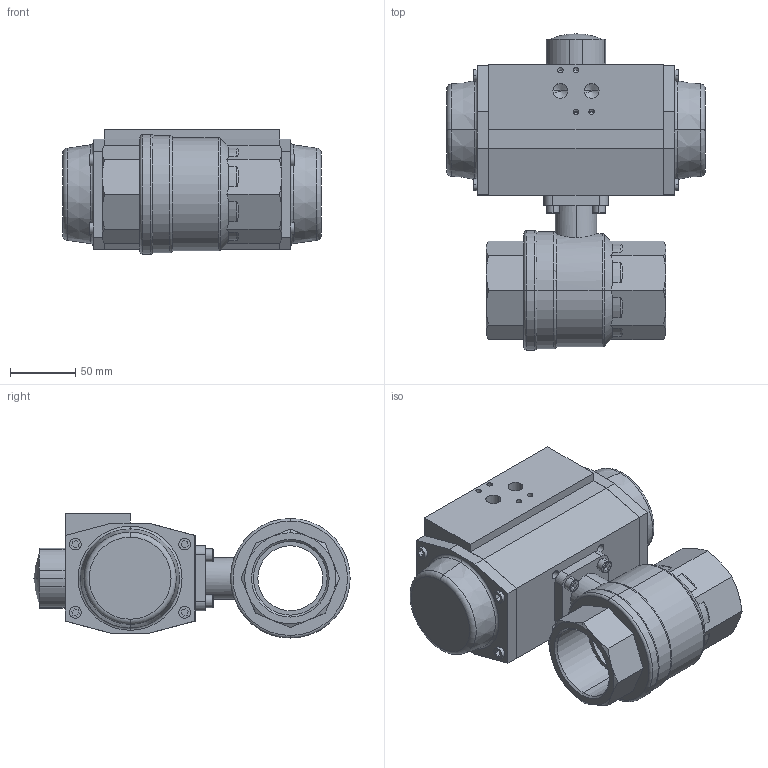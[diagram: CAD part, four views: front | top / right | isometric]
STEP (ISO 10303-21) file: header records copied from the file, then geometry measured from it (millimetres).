
FILE_DESCRIPTION (( 'STEP AP214' ), '1' );
FILE_NAME ('A25-DN50-G2+AP3.step', '2011-03-03T09:49:28', ( '' ), ( '' ), 'SwSTEP 2.0', 'SolidWorks 2011', '' );
FILE_SCHEMA (( 'AUTOMOTIVE_DESIGN' ));
Length unit declared in the file: millimetre
Products named in the file (4): DIN 912 M6 x 20 --- 20N_DIN 912 M6 x 20 --- 20N; AP3_Default<As Machined>; Ballvalve A25-DN50 G2; A25-DN50-G2+AP3
Assembly tree (6 placements, depth 2):
  A25-DN50-G2+AP3
    DIN 912 M6 x 20 --- 20N_DIN 912 M6 x 20 --- 20N  x4
    Ballvalve A25-DN50 G2
    AP3_Default<As Machined>
Bounding box: 199 x 243.24 x 95.5 mm (x, y, z)
Volume: 1927068.4 mm3; surface area: 178740.9 mm2
Topology: 9 solids, 9 shells, 465 faces, 1105 edges, 669 vertices
Faces by surface type: plane 228, cylinder 115, cone 80, torus 40, sphere 2
Entity records: 12571 total; most frequent: CARTESIAN_POINT 2496, DIRECTION 1910, ORIENTED_EDGE 1786, EDGE_CURVE 893, AXIS2_PLACEMENT_3D 684, VERTEX_POINT 570, LINE 542, VECTOR 542
